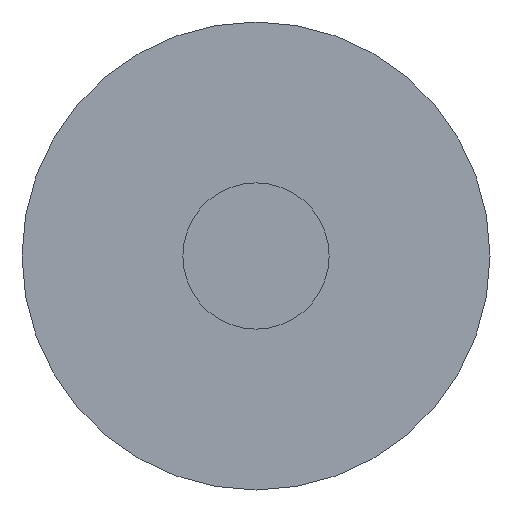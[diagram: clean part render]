
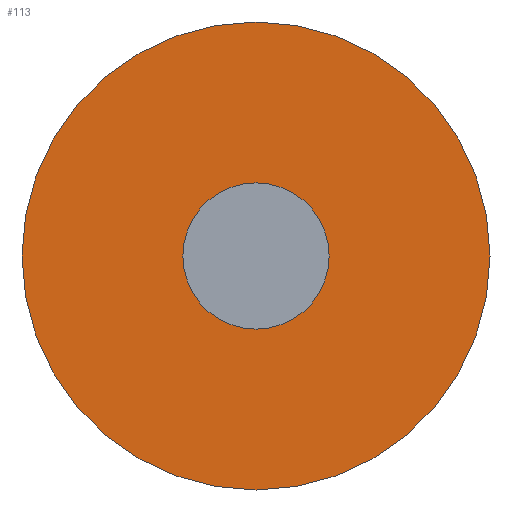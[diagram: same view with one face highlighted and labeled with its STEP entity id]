
A CAD part, front view. The second image highlights one B-rep face of the part: STEP entity #113.
In plain terms, the highlighted planar face has unit normal (0, -1, 0).
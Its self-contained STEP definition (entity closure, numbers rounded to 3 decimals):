
#22 = VERTEX_POINT('',#23);
#23 = CARTESIAN_POINT('',(-36.,50.4,-12.));
#32 = CYLINDRICAL_SURFACE('',#33,8.);
#33 = AXIS2_PLACEMENT_3D('',#34,#35,#36);
#34 = CARTESIAN_POINT('',(-28.,50.4,-12.));
#35 = DIRECTION('',(0.,-1.,0.));
#36 = DIRECTION('',(-1.,-0.,-0.));
#83 = EDGE_CURVE('',#22,#22,#84,.T.);
#84 = SURFACE_CURVE('',#85,(#90,#97),.PCURVE_S1.);
#85 = CIRCLE('',#86,8.);
#86 = AXIS2_PLACEMENT_3D('',#87,#88,#89);
#87 = CARTESIAN_POINT('',(-28.,50.4,-12.));
#88 = DIRECTION('',(0.,-1.,0.));
#89 = DIRECTION('',(-1.,-0.,-0.));
#90 = PCURVE('',#32,#91);
#91 = DEFINITIONAL_REPRESENTATION('',(#92),#96);
#92 = LINE('',#93,#94);
#93 = CARTESIAN_POINT('',(0.,0.));
#94 = VECTOR('',#95,1.);
#95 = DIRECTION('',(1.,0.));
#96 = ( GEOMETRIC_REPRESENTATION_CONTEXT(2) 
PARAMETRIC_REPRESENTATION_CONTEXT() REPRESENTATION_CONTEXT('2D SPACE',''
  ) );
#97 = PCURVE('',#98,#103);
#98 = PLANE('',#99);
#99 = AXIS2_PLACEMENT_3D('',#100,#101,#102);
#100 = CARTESIAN_POINT('',(-28.,50.4,-12.));
#101 = DIRECTION('',(-0.,1.,0.));
#102 = DIRECTION('',(1.,0.,0.));
#103 = DEFINITIONAL_REPRESENTATION('',(#104),#112);
#104 = ( BOUNDED_CURVE() B_SPLINE_CURVE(2,(#105,#106,#107,#108,#109,#110
,#111),.UNSPECIFIED.,.T.,.F.) B_SPLINE_CURVE_WITH_KNOTS((1,2,2,2,2,1),(
    -2.094,0.,2.094,4.189,6.283,
8.378),.UNSPECIFIED.) CURVE() GEOMETRIC_REPRESENTATION_ITEM() 
RATIONAL_B_SPLINE_CURVE((1.,0.5,1.,0.5,1.,0.5,1.)) REPRESENTATION_ITEM(
  '') );
#105 = CARTESIAN_POINT('',(-8.,0.));
#106 = CARTESIAN_POINT('',(-8.,13.856));
#107 = CARTESIAN_POINT('',(4.,6.928));
#108 = CARTESIAN_POINT('',(16.,0.));
#109 = CARTESIAN_POINT('',(4.,-6.928));
#110 = CARTESIAN_POINT('',(-8.,-13.856));
#111 = CARTESIAN_POINT('',(-8.,0.));
#112 = ( GEOMETRIC_REPRESENTATION_CONTEXT(2) 
PARAMETRIC_REPRESENTATION_CONTEXT() REPRESENTATION_CONTEXT('2D SPACE',''
  ) );
#113 = ADVANCED_FACE('',(#114,#117),#98,.F.);
#114 = FACE_BOUND('',#115,.T.);
#115 = EDGE_LOOP('',(#116));
#116 = ORIENTED_EDGE('',*,*,#83,.T.);
#117 = FACE_BOUND('',#118,.T.);
#118 = EDGE_LOOP('',(#119));
#119 = ORIENTED_EDGE('',*,*,#120,.F.);
#120 = EDGE_CURVE('',#121,#121,#123,.T.);
#121 = VERTEX_POINT('',#122);
#122 = CARTESIAN_POINT('',(-30.5,50.4,-12.));
#123 = SURFACE_CURVE('',#124,(#129,#140),.PCURVE_S1.);
#124 = CIRCLE('',#125,2.5);
#125 = AXIS2_PLACEMENT_3D('',#126,#127,#128);
#126 = CARTESIAN_POINT('',(-28.,50.4,-12.));
#127 = DIRECTION('',(0.,-1.,0.));
#128 = DIRECTION('',(-1.,-0.,-0.));
#129 = PCURVE('',#98,#130);
#130 = DEFINITIONAL_REPRESENTATION('',(#131),#139);
#131 = ( BOUNDED_CURVE() B_SPLINE_CURVE(2,(#132,#133,#134,#135,#136,#137
,#138),.UNSPECIFIED.,.T.,.F.) B_SPLINE_CURVE_WITH_KNOTS((1,2,2,2,2,1),(
    -2.094,0.,2.094,4.189,6.283,
8.378),.UNSPECIFIED.) CURVE() GEOMETRIC_REPRESENTATION_ITEM() 
RATIONAL_B_SPLINE_CURVE((1.,0.5,1.,0.5,1.,0.5,1.)) REPRESENTATION_ITEM(
  '') );
#132 = CARTESIAN_POINT('',(-2.5,0.));
#133 = CARTESIAN_POINT('',(-2.5,4.33));
#134 = CARTESIAN_POINT('',(1.25,2.165));
#135 = CARTESIAN_POINT('',(5.,0.));
#136 = CARTESIAN_POINT('',(1.25,-2.165));
#137 = CARTESIAN_POINT('',(-2.5,-4.33));
#138 = CARTESIAN_POINT('',(-2.5,0.));
#139 = ( GEOMETRIC_REPRESENTATION_CONTEXT(2) 
PARAMETRIC_REPRESENTATION_CONTEXT() REPRESENTATION_CONTEXT('2D SPACE',''
  ) );
#140 = PCURVE('',#141,#146);
#141 = CYLINDRICAL_SURFACE('',#142,2.5);
#142 = AXIS2_PLACEMENT_3D('',#143,#144,#145);
#143 = CARTESIAN_POINT('',(-28.,45.,-12.));
#144 = DIRECTION('',(0.,-1.,0.));
#145 = DIRECTION('',(-1.,-0.,-0.));
#146 = DEFINITIONAL_REPRESENTATION('',(#147),#151);
#147 = LINE('',#148,#149);
#148 = CARTESIAN_POINT('',(0.,-5.4));
#149 = VECTOR('',#150,1.);
#150 = DIRECTION('',(1.,0.));
#151 = ( GEOMETRIC_REPRESENTATION_CONTEXT(2) 
PARAMETRIC_REPRESENTATION_CONTEXT() REPRESENTATION_CONTEXT('2D SPACE',''
  ) );
